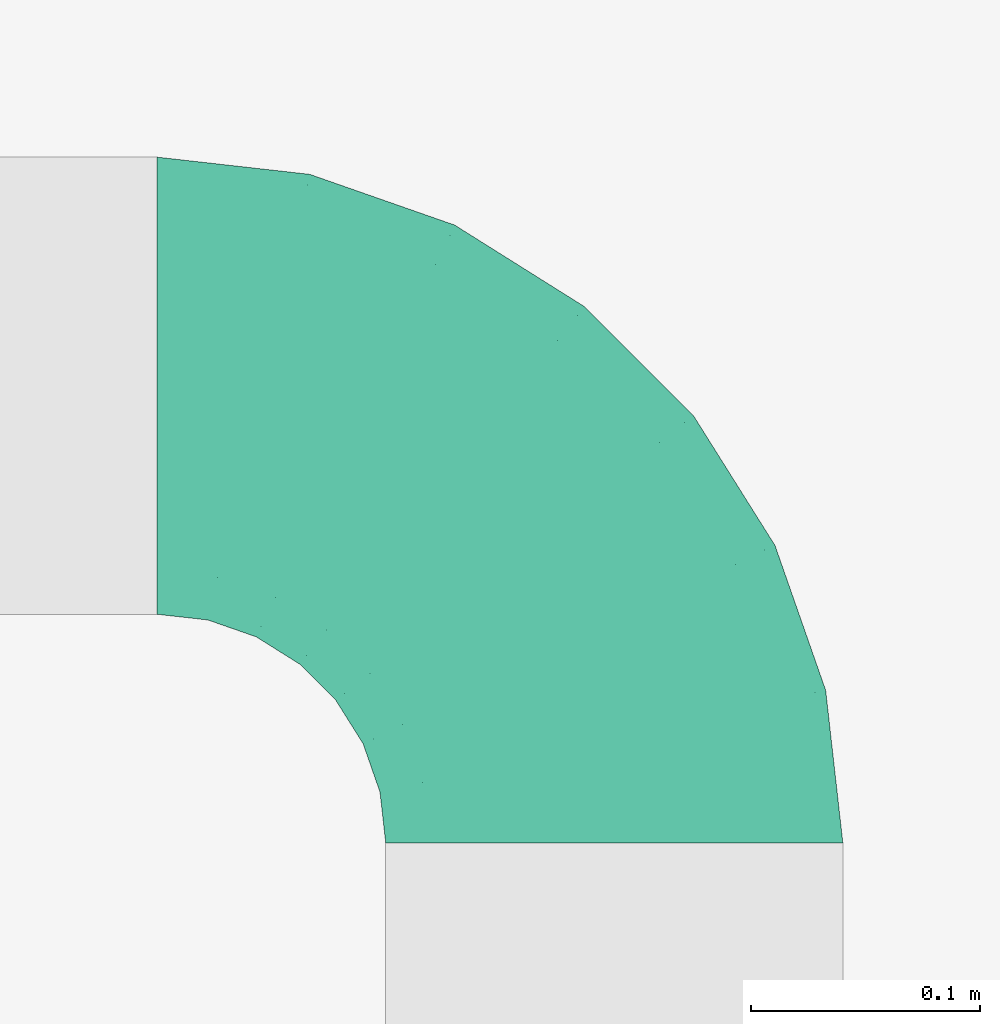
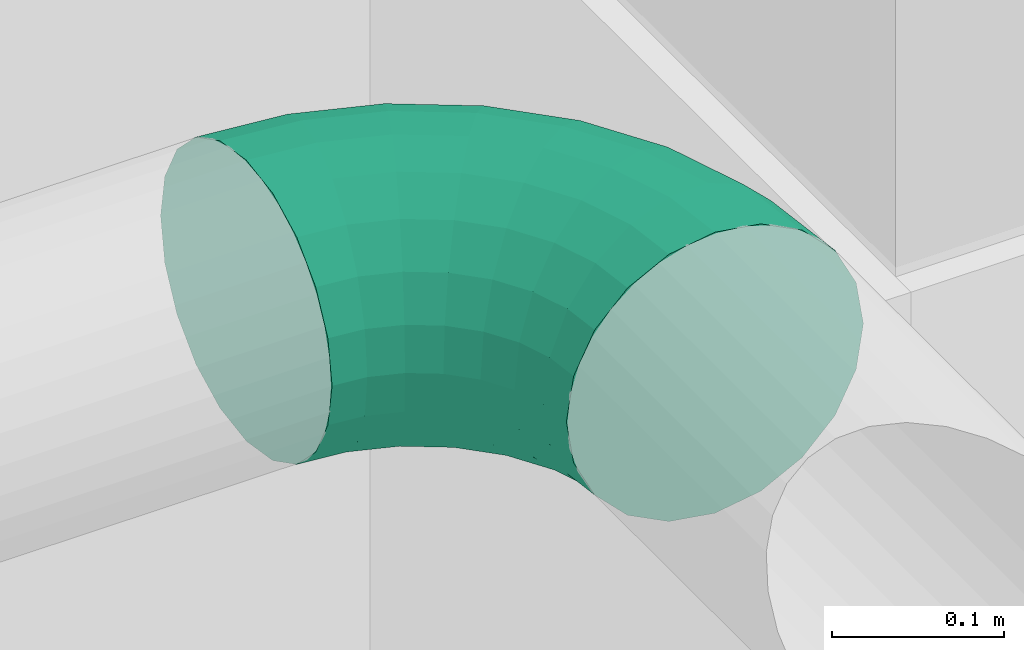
# One storey, part 94 of 100: 1 flow fitting.
"""IFC2X3 building model written with IfcOpenShell, lengths in millimetres."""

from ifc_helpers import new_model, entity, si_unit, converted_unit, derived_unit, direction, frame, origin, place, context, subcontext, project, spatial, faceted_brep, source, transform, mapped, material, material_list, type_object, type_shapes, element, save


model = new_model("IFC2X3")

# Units and contexts
model_context = context("Model", 3, precision=0.01, world=origin(), true_north=direction((6.123031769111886e-17, 1.0)))
body_context = subcontext(model_context, "Body", "Model", "MODEL_VIEW")
ifc_project = project(units=[si_unit("LENGTHUNIT", "METRE", prefix="MILLI"), si_unit("AREAUNIT", "SQUARE_METRE"), si_unit("VOLUMEUNIT", "CUBIC_METRE"), converted_unit("PLANEANGLEUNIT", "DEGREE", entity("IfcRatioMeasure", 0.017453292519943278), si_unit("PLANEANGLEUNIT", "RADIAN"), dimensions=[0, 0, 0, 0, 0, 0, 0]), si_unit("MASSUNIT", "GRAM", prefix="KILO"), derived_unit("MASSDENSITYUNIT", [(si_unit("MASSUNIT", "GRAM", prefix="KILO"), 1), (si_unit("LENGTHUNIT", "METRE"), -3)]), derived_unit("MOMENTOFINERTIAUNIT", [(si_unit("LENGTHUNIT", "METRE"), 4)]), si_unit("TIMEUNIT", "SECOND"), si_unit("FREQUENCYUNIT", "HERTZ"), si_unit("THERMODYNAMICTEMPERATUREUNIT", "DEGREE_CELSIUS"), derived_unit("THERMALTRANSMITTANCEUNIT", [(si_unit("MASSUNIT", "GRAM", prefix="KILO"), 1), (si_unit("THERMODYNAMICTEMPERATUREUNIT", "KELVIN"), -1), (si_unit("TIMEUNIT", "SECOND"), -3)]), derived_unit("VOLUMETRICFLOWRATEUNIT", [(si_unit("LENGTHUNIT", "METRE"), 3), (si_unit("TIMEUNIT", "SECOND"), -1)]), derived_unit("MASSFLOWRATEUNIT", [(si_unit("MASSUNIT", "GRAM", prefix="KILO"), 1), (si_unit("TIMEUNIT", "SECOND"), -1)]), derived_unit("ROTATIONALFREQUENCYUNIT", [(si_unit("TIMEUNIT", "SECOND"), -1)]), si_unit("ELECTRICCURRENTUNIT", "AMPERE"), si_unit("ELECTRICVOLTAGEUNIT", "VOLT"), si_unit("POWERUNIT", "WATT"), si_unit("FORCEUNIT", "NEWTON", prefix="KILO"), si_unit("ILLUMINANCEUNIT", "LUX"), si_unit("LUMINOUSFLUXUNIT", "LUMEN"), si_unit("LUMINOUSINTENSITYUNIT", "CANDELA"), derived_unit("USERDEFINED", [(si_unit("MASSUNIT", "GRAM", prefix="KILO"), -1), (si_unit("LENGTHUNIT", "METRE"), -2), (si_unit("TIMEUNIT", "SECOND"), 3), (si_unit("LUMINOUSFLUXUNIT", "LUMEN"), 1)]), derived_unit("SOUNDPOWERUNIT", [(si_unit("MASSUNIT", "GRAM", prefix="KILO"), 1), (si_unit("LENGTHUNIT", "METRE"), 2), (si_unit("TIMEUNIT", "SECOND"), -3)]), derived_unit("SOUNDPRESSUREUNIT", [(si_unit("MASSUNIT", "GRAM", prefix="KILO"), 1), (si_unit("LENGTHUNIT", "METRE"), -1), (si_unit("TIMEUNIT", "SECOND"), -2)]), derived_unit("LINEARVELOCITYUNIT", [(si_unit("LENGTHUNIT", "METRE"), 1), (si_unit("TIMEUNIT", "SECOND"), -1)]), si_unit("PRESSUREUNIT", "PASCAL"), derived_unit("USERDEFINED", [(si_unit("LENGTHUNIT", "METRE"), -2), (si_unit("MASSUNIT", "GRAM", prefix="KILO"), 1), (si_unit("TIMEUNIT", "SECOND"), -2)]), derived_unit("LINEARFORCEUNIT", [(si_unit("MASSUNIT", "GRAM", prefix="KILO"), 1), (si_unit("LENGTHUNIT", "METRE"), 1), (si_unit("TIMEUNIT", "SECOND"), -2), (si_unit("LENGTHUNIT", "METRE"), -1)]), derived_unit("PLANARFORCEUNIT", [(si_unit("MASSUNIT", "GRAM", prefix="KILO"), 1), (si_unit("LENGTHUNIT", "METRE"), 1), (si_unit("TIMEUNIT", "SECOND"), -2), (si_unit("LENGTHUNIT", "METRE"), -2)])], contexts=[model_context])

# Site, building, storey
site_placement = place(None, frame((-14167.972527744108, -657.2125860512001, 0.0)))
site = spatial("IfcSite", under=ifc_project, at=site_placement, Name="Default", CompositionType="ELEMENT")
building_placement = place(site_placement, origin())
building = spatial("IfcBuilding", under=site, at=building_placement, Name="Sample Building", CompositionType="ELEMENT")
storey_placement = place(building_placement, origin())
storey = spatial("IfcBuildingStorey", under=building, at=storey_placement, Name="지상 1층", CompositionType="ELEMENT", Elevation=0.0)

# Flow fitting
ifc_material = material(Name="<Unnamed>")
ifc_material_list_1 = material_list([ifc_material, ifc_material])
ifc_material_list_2 = material_list([ifc_material, ifc_material])
duct_fitting_type = type_object("IfcDuctFittingType", Name="M_원형 엘보:RA", PredefinedType="NOTDEFINED", material=ifc_material_list_2)
shared_shape = source(origin(), body_context, "Body", "Brep", [
    faceted_brep([(-155.49581320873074, 5.014417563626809, 100.0), (-162.37208822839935, 35.14134687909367, 95.10565162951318), (-200.0, 30.90169943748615, 95.10565162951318), (-200.0, 0.0, 100.0), (-168.57526553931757, 62.3192424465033, 80.9016994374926), (-200.0, 58.77852522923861, 80.9016994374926), (-173.49813492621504, 83.88774248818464, 58.77852522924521), (-200.0, 80.90169943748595, 58.77852522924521), (-176.6588116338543, 97.73557194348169, 30.901699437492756), (-200.0, 95.10565162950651, 30.901699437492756), (-177.7479066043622, 102.50720878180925, 0.0), (-200.0, 100.0, 0.0), (-176.6588116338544, 97.73557194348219, -30.901699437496), (-200.0, 95.10565162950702, -30.901699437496), (-173.49813492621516, 83.88774248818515, -58.778525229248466), (-200.0, 80.90169943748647, -58.778525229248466), (-168.57526553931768, 62.31924244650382, -80.90169943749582), (-200.0, 58.77852522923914, -80.90169943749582), (-162.37208822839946, 35.1413468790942, -95.10565162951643), (-200.0, 30.9016994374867, -95.10565162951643), (-155.495813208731, 5.0144175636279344, -100.0), (-200.0, 0.0, -100.0), (-148.6195381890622, -25.11251175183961, -95.10565162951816), (-200.0, -30.901699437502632, -95.10565162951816), (-142.4163608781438, -52.29040731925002, -80.90169943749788), (-200.0, -58.77852522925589, -80.90169943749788), (-137.49349149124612, -73.8589073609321, -58.77852522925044), (-200.0, -80.90169943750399, -58.77852522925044), (-134.33281478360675, -87.70673681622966, -30.901699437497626), (-200.0, -95.1056516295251, -30.901699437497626), (-133.2437198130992, -92.47837365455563, 0.0), (-200.0, -100.0, 0.0), (-134.33281478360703, -87.7067368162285, 30.901699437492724), (-200.0, -95.1056516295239, 30.901699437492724), (-137.4934914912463, -73.8589073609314, 58.77852522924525), (-200.0, -80.90169943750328, 58.77852522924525), (-142.41636087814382, -52.290407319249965, 80.90169943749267), (-200.0, -58.778525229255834, 80.90169943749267), (-148.61953818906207, -25.112511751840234, 95.10565162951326), (-200.0, -30.901699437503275, 95.10565162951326), (-113.223252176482, 19.806226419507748, 100.0), (-126.6309970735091, 47.64769557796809, 95.10565162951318), (-138.72629848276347, 72.76384775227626, 80.9016994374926), (-148.32518402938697, 92.69613897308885, 58.77852522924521), (-154.48804791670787, 105.49345769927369, 30.901699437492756), (-156.6116260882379, 109.90311320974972, 0.0), (-154.4880479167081, 105.49345769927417, -30.901699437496), (-148.3251840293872, 92.69613897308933, -58.778525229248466), (-138.7262984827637, 72.76384775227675, -80.90169943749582), (-126.63099707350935, 47.64769557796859, -95.10565162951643), (-113.2232521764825, 19.80622641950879, -100.0), (-99.8155072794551, -8.03524273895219, -95.10565162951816), (-87.72020587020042, -33.151394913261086, -80.90169943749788), (-78.12132032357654, -53.08368613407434, -58.77852522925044), (-71.95845643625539, -65.8810048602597, -30.901699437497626), (-69.8348782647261, -70.29066037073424, 0.0), (-71.95845643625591, -65.88100486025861, 30.901699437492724), (-78.12132032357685, -53.0836861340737, 58.77852522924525), (-87.72020587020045, -33.15139491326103, 80.90169943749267), (-99.81550727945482, -8.03524273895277, 95.10565162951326), (-75.30203962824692, 43.633703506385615, 100.0), (-94.56893408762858, 67.79362498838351, 95.10565162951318), (-111.94985067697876, 89.58860502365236, 80.9016994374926), (-125.74342418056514, 106.88519911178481, 58.77852522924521), (-134.59944351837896, 117.99029611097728, 30.901699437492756), (-137.65101981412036, 121.81685175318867, 0.0), (-134.59944351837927, 117.99029611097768, -30.901699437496), (-125.74342418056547, 106.88519911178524, -58.778525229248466), (-111.9498506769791, 89.58860502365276, -80.90169943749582), (-94.56893408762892, 67.79362498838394, -95.10565162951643), (-75.30203962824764, 43.63370350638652, -100.0), (-56.03514516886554, 19.473782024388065, -95.10565162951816), (-38.65422857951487, -2.3211980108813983, -80.90169943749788), (-24.860655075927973, -19.617792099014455, -58.77852522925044), (-16.004635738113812, -30.722889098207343, -30.901699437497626), (-12.953059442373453, -34.549444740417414, 0.0), (-16.00463573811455, -30.722889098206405, 30.901699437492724), (-24.860655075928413, -19.6177920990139, 58.77852522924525), (-38.65422857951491, -2.3211980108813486, 80.90169943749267), (-56.03514516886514, 19.473782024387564, 95.10565162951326), (-43.633703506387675, 75.3020396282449, 100.0), (-67.79362498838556, 94.56893408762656, 95.10565162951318), (-89.58860502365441, 111.94985067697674, 80.9016994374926), (-106.88519911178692, 125.7434241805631, 58.77852522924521), (-117.99029611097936, 134.59944351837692, 30.901699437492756), (-121.81685175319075, 137.6510198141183, 0.0), (-117.99029611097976, 134.59944351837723, -30.901699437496), (-106.88519911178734, 125.74342418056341, -58.778525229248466), (-89.58860502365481, 111.94985067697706, -80.90169943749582), (-67.79362498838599, 94.5689340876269, -95.10565162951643), (-43.63370350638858, 75.30203962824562, -100.0), (-19.473782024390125, 56.03514516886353, -95.10565162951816), (2.3211980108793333, 38.65422857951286, -80.90169943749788), (19.61779209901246, 24.860655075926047, -58.77852522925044), (30.722889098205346, 16.004635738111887, -30.901699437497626), (34.54944474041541, 12.953059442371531, 0.0), (30.72288909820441, 16.004635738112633, 30.901699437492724), (19.617792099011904, 24.860655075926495, 58.77852522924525), (2.3211980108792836, 38.654228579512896, 80.90169943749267), (-19.473782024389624, 56.035145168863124, 95.10565162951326), (-19.80622641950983, 113.22325217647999, 100.0), (-47.64769557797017, 126.63099707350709, 95.10565162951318), (-72.76384775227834, 138.72629848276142, 80.9016994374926), (-92.69613897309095, 148.32518402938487, 58.77852522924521), (-105.4934576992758, 154.4880479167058, 30.901699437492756), (-109.90311320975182, 156.61162608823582, 0.0), (-105.49345769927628, 154.48804791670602, -30.901699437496), (-92.69613897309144, 148.3251840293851, -58.778525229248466), (-72.76384775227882, 138.72629848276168, -80.90169943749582), (-47.647695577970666, 126.63099707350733, -95.10565162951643), (-19.80622641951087, 113.22325217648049, -100.0), (8.035242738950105, 99.81550727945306, -95.10565162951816), (33.151394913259, 87.72020587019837, -80.90169943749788), (53.08368613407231, 78.12132032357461, -58.77852522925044), (65.88100486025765, 71.95845643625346, -30.901699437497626), (70.2906603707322, 69.83487826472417, 0.0), (65.88100486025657, 71.95845643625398, 30.901699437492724), (53.08368613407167, 78.12132032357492, 58.77852522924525), (33.15139491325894, 87.7202058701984, 80.90169943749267), (8.035242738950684, 99.81550727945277, 95.10565162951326), (-5.014417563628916, 155.49581320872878, 100.0), (-35.14134687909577, 162.3720882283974, 95.10565162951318), (-62.319242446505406, 168.5752655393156, 80.9016994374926), (-83.88774248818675, 173.49813492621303, 58.77852522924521), (-97.73557194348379, 176.65881163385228, 30.901699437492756), (-102.50720878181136, 177.7479066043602, 0.0), (-97.73557194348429, 176.6588116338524, -30.901699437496), (-83.88774248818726, 173.49813492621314, -58.778525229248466), (-62.319242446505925, 168.57526553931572, -80.90169943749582), (-35.141346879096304, 162.3720882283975, -95.10565162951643), (-5.014417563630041, 155.49581320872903, -100.0), (25.1125117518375, 148.61953818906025, -95.10565162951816), (52.29040731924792, 142.41636087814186, -80.90169943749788), (73.85890736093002, 137.4934914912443, -58.77852522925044), (87.70673681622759, 134.33281478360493, -30.901699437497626), (92.47837365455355, 133.24371981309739, 0.0), (87.70673681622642, 134.3328147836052, 30.901699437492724), (73.85890736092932, 137.49349149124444, 58.77852522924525), (52.29040731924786, 142.41636087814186, 80.90169943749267), (25.112511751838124, 148.6195381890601, 95.10565162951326), (0.0, 200.0, 100.0), (-30.901699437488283, 200.0, 95.10565162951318), (-58.77852522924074, 200.0, 80.9016994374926), (-80.90169943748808, 200.0, 58.77852522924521), (-95.10565162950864, 200.0, 30.901699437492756), (-100.0, 200.0, 0.0), (-95.10565162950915, 200.0, -30.901699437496), (-80.9016994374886, 200.0, -58.778525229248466), (-58.778525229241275, 200.0, -80.90169943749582), (-30.90169943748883, 200.0, -95.10565162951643), (0.0, 200.0, -100.0), (30.9016994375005, 200.0, -95.10565162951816), (58.77852522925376, 200.0, -80.90169943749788), (80.90169943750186, 200.0, -58.77852522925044), (95.10565162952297, 200.0, -30.901699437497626), (100.0, 200.0, 0.0), (95.10565162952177, 200.0, 30.901699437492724), (80.90169943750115, 200.0, 58.77852522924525), (58.7785252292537, 200.0, 80.90169943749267), (30.901699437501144, 200.0, 95.10565162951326)], [[[0, 1, 2, 3]], [[1, 4, 5, 2]], [[4, 6, 7, 5]], [[6, 8, 9, 7]], [[8, 10, 11, 9]], [[10, 12, 13, 11]], [[12, 14, 15, 13]], [[14, 16, 17, 15]], [[16, 18, 19, 17]], [[18, 20, 21, 19]], [[20, 22, 23, 21]], [[22, 24, 25, 23]], [[24, 26, 27, 25]], [[26, 28, 29, 27]], [[28, 30, 31, 29]], [[30, 32, 33, 31]], [[32, 34, 35, 33]], [[34, 36, 37, 35]], [[36, 38, 39, 37]], [[38, 0, 3, 39]], [[40, 41, 1, 0]], [[41, 42, 4, 1]], [[42, 43, 6, 4]], [[43, 44, 8, 6]], [[44, 45, 10, 8]], [[45, 46, 12, 10]], [[46, 47, 14, 12]], [[47, 48, 16, 14]], [[48, 49, 18, 16]], [[49, 50, 20, 18]], [[50, 51, 22, 20]], [[51, 52, 24, 22]], [[52, 53, 26, 24]], [[53, 54, 28, 26]], [[54, 55, 30, 28]], [[55, 56, 32, 30]], [[56, 57, 34, 32]], [[57, 58, 36, 34]], [[58, 59, 38, 36]], [[59, 40, 0, 38]], [[60, 61, 41, 40]], [[61, 62, 42, 41]], [[62, 63, 43, 42]], [[63, 64, 44, 43]], [[64, 65, 45, 44]], [[65, 66, 46, 45]], [[66, 67, 47, 46]], [[67, 68, 48, 47]], [[68, 69, 49, 48]], [[69, 70, 50, 49]], [[70, 71, 51, 50]], [[71, 72, 52, 51]], [[72, 73, 53, 52]], [[73, 74, 54, 53]], [[74, 75, 55, 54]], [[75, 76, 56, 55]], [[76, 77, 57, 56]], [[77, 78, 58, 57]], [[78, 79, 59, 58]], [[79, 60, 40, 59]], [[80, 81, 61, 60]], [[81, 82, 62, 61]], [[82, 83, 63, 62]], [[83, 84, 64, 63]], [[84, 85, 65, 64]], [[85, 86, 66, 65]], [[86, 87, 67, 66]], [[87, 88, 68, 67]], [[88, 89, 69, 68]], [[89, 90, 70, 69]], [[90, 91, 71, 70]], [[91, 92, 72, 71]], [[92, 93, 73, 72]], [[93, 94, 74, 73]], [[94, 95, 75, 74]], [[95, 96, 76, 75]], [[96, 97, 77, 76]], [[97, 98, 78, 77]], [[98, 99, 79, 78]], [[99, 80, 60, 79]], [[100, 101, 81, 80]], [[101, 102, 82, 81]], [[102, 103, 83, 82]], [[103, 104, 84, 83]], [[104, 105, 85, 84]], [[105, 106, 86, 85]], [[106, 107, 87, 86]], [[107, 108, 88, 87]], [[108, 109, 89, 88]], [[109, 110, 90, 89]], [[110, 111, 91, 90]], [[111, 112, 92, 91]], [[112, 113, 93, 92]], [[113, 114, 94, 93]], [[114, 115, 95, 94]], [[115, 116, 96, 95]], [[116, 117, 97, 96]], [[117, 118, 98, 97]], [[118, 119, 99, 98]], [[119, 100, 80, 99]], [[120, 121, 101, 100]], [[121, 122, 102, 101]], [[122, 123, 103, 102]], [[123, 124, 104, 103]], [[124, 125, 105, 104]], [[125, 126, 106, 105]], [[126, 127, 107, 106]], [[127, 128, 108, 107]], [[128, 129, 109, 108]], [[129, 130, 110, 109]], [[130, 131, 111, 110]], [[131, 132, 112, 111]], [[132, 133, 113, 112]], [[133, 134, 114, 113]], [[134, 135, 115, 114]], [[135, 136, 116, 115]], [[136, 137, 117, 116]], [[137, 138, 118, 117]], [[138, 139, 119, 118]], [[139, 120, 100, 119]], [[140, 141, 121, 120]], [[141, 142, 122, 121]], [[142, 143, 123, 122]], [[143, 144, 124, 123]], [[144, 145, 125, 124]], [[145, 146, 126, 125]], [[146, 147, 127, 126]], [[147, 148, 128, 127]], [[148, 149, 129, 128]], [[149, 150, 130, 129]], [[150, 151, 131, 130]], [[151, 152, 132, 131]], [[152, 153, 133, 132]], [[153, 154, 134, 133]], [[154, 155, 135, 134]], [[155, 156, 136, 135]], [[156, 157, 137, 136]], [[157, 158, 138, 137]], [[158, 159, 139, 138]], [[159, 140, 120, 139]], [[3, 2, 5, 7, 9, 11, 13, 15, 17, 19, 21, 23, 25, 27, 29, 31, 33, 35, 37, 39]], [[159, 158, 157, 156, 155, 154, 153, 152, 151, 150, 149, 148, 147, 146, 145, 144, 143, 142, 141, 140]]]),
])
type_shapes(duct_fitting_type, [shared_shape])
flow_fitting_placement = place(storey_placement, frame((26099.51078220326, 34383.371295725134, 4180.0), z_axis=(0.0, 0.0, 1.0), x_axis=(0.0, 1.0, 0.0)))
element("IfcFlowFitting", 1, at=flow_fitting_placement, inside=storey, type_object=duct_fitting_type, material=ifc_material_list_1, Name="M_원형 엘보:RA", ObjectType="M_원형 엘보:RA", context=body_context, shape_type="MappedRepresentation", body=[
    mapped(shared_shape, transform((0.0, 0.0, 0.0), scale=1.0)),
])

save(model, "model.ifc")
